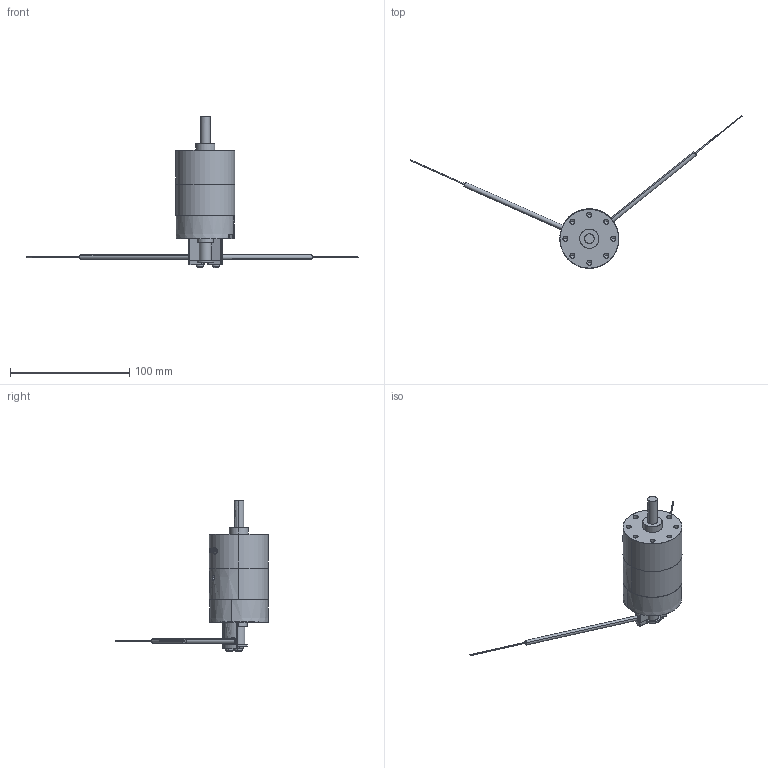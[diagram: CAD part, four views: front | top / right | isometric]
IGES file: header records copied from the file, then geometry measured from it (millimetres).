
Start section: SolidWorks IGES file using analytic representation for surfaces
Global section: file name: C:\Users\Chieh_Lu\Dropbox\¤u§@«Ç\PRO\PROA20S\PROA20S-#-#\PROA20S-#-#-#-FU.IGS; native system: SolidWorks 2014; preprocessor: SolidWorks 2014; author: Chieh_Lu; date: 150731.014338; units: millimetre
Bounding box: 278.31 x 128.1 x 127.11 mm (x, y, z)
Surface area: 43701.7 mm2 (no closed solid volume)
Topology: 0 solids, 0 shells, 540 faces, 7685 edges, 7663 vertices
Faces by surface type: revolution 282, bspline 258
